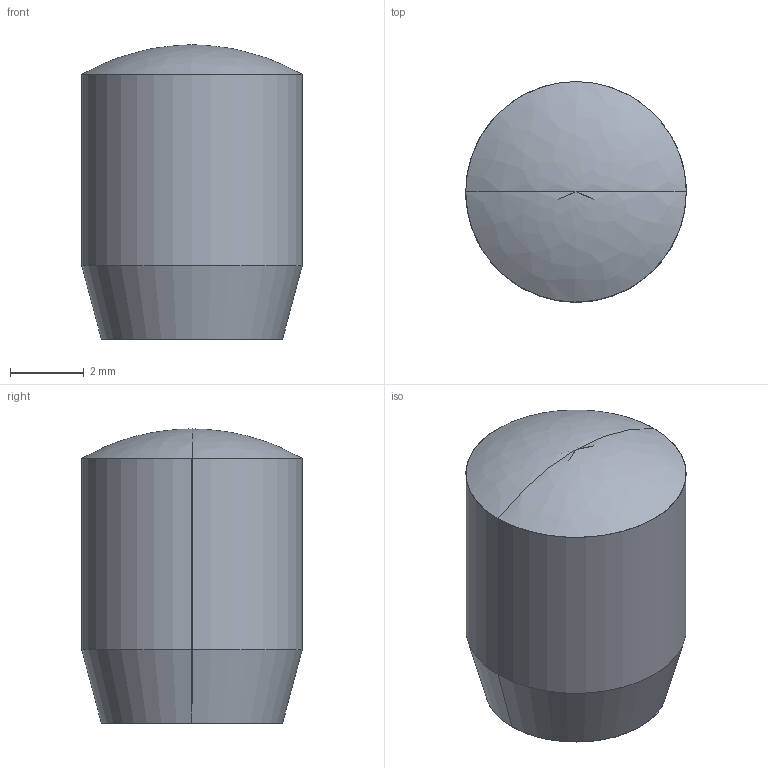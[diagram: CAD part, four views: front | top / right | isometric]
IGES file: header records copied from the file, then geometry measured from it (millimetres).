
Global section: file name: E:\UnigraphicsGraphicData\MISUMI_PRESS-PARTS\IGES\3d_ms6-8_00424_r00.igs; native system: NX V5.0; preprocessor: UGS NX IGES V5.0; author: MISUMI; date: 20110105.161512; units: millimetre
Bounding box: 6 x 6 x 8 mm (x, y, z)
Surface area: 182.9 mm2 (no closed solid volume)
Topology: 0 solids, 0 shells, 7 faces, 32 edges, 30 vertices
Faces by surface type: bspline 7
